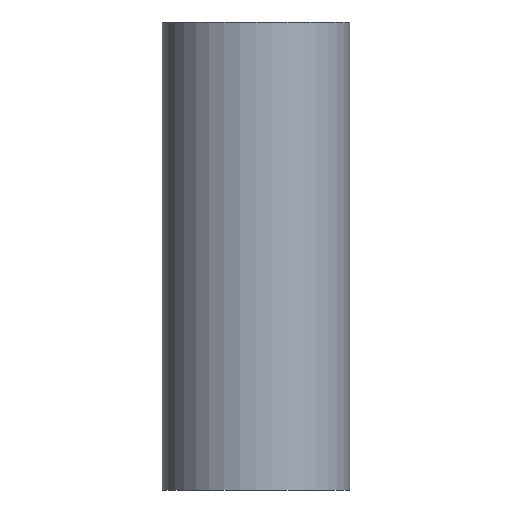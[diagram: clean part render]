
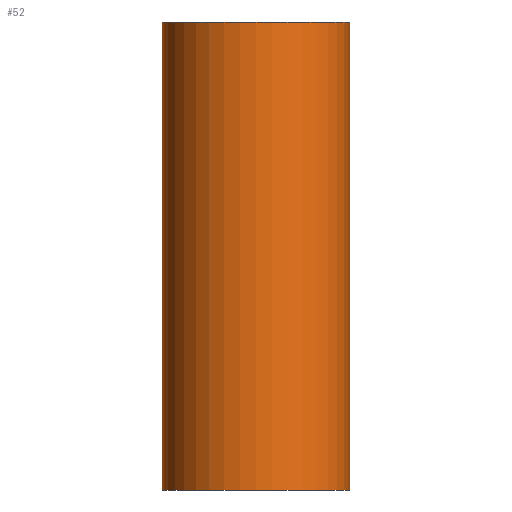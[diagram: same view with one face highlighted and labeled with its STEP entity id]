
A CAD part, front view. The second image highlights one B-rep face of the part: STEP entity #52.
In plain terms, the highlighted cylindrical face has radius 3.175 mm (diameter 6.35 mm), a partial arc.
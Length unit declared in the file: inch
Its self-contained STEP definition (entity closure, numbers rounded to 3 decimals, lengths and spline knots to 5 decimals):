
#11 = DIRECTION ( 'NONE',  ( 1., 0., 0. ) ) ;
#13 = DIRECTION ( 'NONE',  ( 1., 0., 0. ) ) ;
#16 = VECTOR ( 'NONE', #100, 39.37008 ) ;
#22 = EDGE_CURVE ( 'NONE', #200, #122, #197, .T. ) ;
#26 = CYLINDRICAL_SURFACE ( 'NONE', #152, 0.125 ) ;
#27 = ORIENTED_EDGE ( 'NONE', *, *, #22, .F. ) ;
#30 = CARTESIAN_POINT ( 'NONE',  ( 0., 0., 0.625 ) ) ;
#31 = CARTESIAN_POINT ( 'NONE',  ( -0.125, 0., 0.625 ) ) ;
#42 = CARTESIAN_POINT ( 'NONE',  ( -0.125, 0., 0. ) ) ;
#44 = VERTEX_POINT ( 'NONE', #42 ) ;
#52 = ADVANCED_FACE ( 'NONE', ( #58 ), #26, .T. ) ;
#58 = FACE_OUTER_BOUND ( 'NONE', #69, .T. ) ;
#59 = DIRECTION ( 'NONE',  ( -1., 0., 0. ) ) ;
#69 = EDGE_LOOP ( 'NONE', ( #185, #27, #143, #146 ) ) ;
#71 = CARTESIAN_POINT ( 'NONE',  ( 0., 0., 0.625 ) ) ;
#74 = LINE ( 'NONE', #141, #110 ) ;
#87 = EDGE_CURVE ( 'NONE', #44, #176, #187, .T. ) ;
#90 = DIRECTION ( 'NONE',  ( 0., 0., 1. ) ) ;
#91 = EDGE_CURVE ( 'NONE', #122, #176, #74, .T. ) ;
#99 = LINE ( 'NONE', #192, #16 ) ;
#100 = DIRECTION ( 'NONE',  ( 0., 0., -1. ) ) ;
#107 = DIRECTION ( 'NONE',  ( 0., 0., -1. ) ) ;
#109 = DIRECTION ( 'NONE',  ( 0., 0., 1. ) ) ;
#110 = VECTOR ( 'NONE', #221, 39.37008 ) ;
#111 = CARTESIAN_POINT ( 'NONE',  ( 0., 0., 0. ) ) ;
#118 = CARTESIAN_POINT ( 'NONE',  ( 0.125, 0., 0. ) ) ;
#122 = VERTEX_POINT ( 'NONE', #199 ) ;
#133 = AXIS2_PLACEMENT_3D ( 'NONE', #111, #90, #11 ) ;
#141 = CARTESIAN_POINT ( 'NONE',  ( 0.125, 0., 0.625 ) ) ;
#143 = ORIENTED_EDGE ( 'NONE', *, *, #164, .T. ) ;
#146 = ORIENTED_EDGE ( 'NONE', *, *, #87, .T. ) ;
#152 = AXIS2_PLACEMENT_3D ( 'NONE', #30, #107, #59 ) ;
#164 = EDGE_CURVE ( 'NONE', #200, #44, #99, .T. ) ;
#167 = AXIS2_PLACEMENT_3D ( 'NONE', #71, #109, #13 ) ;
#176 = VERTEX_POINT ( 'NONE', #118 ) ;
#185 = ORIENTED_EDGE ( 'NONE', *, *, #91, .F. ) ;
#187 = CIRCLE ( 'NONE', #133, 0.125 ) ;
#192 = CARTESIAN_POINT ( 'NONE',  ( -0.125, 0., 0.625 ) ) ;
#197 = CIRCLE ( 'NONE', #167, 0.125 ) ;
#199 = CARTESIAN_POINT ( 'NONE',  ( 0.125, 0., 0.625 ) ) ;
#200 = VERTEX_POINT ( 'NONE', #31 ) ;
#221 = DIRECTION ( 'NONE',  ( 0., 0., -1. ) ) ;
